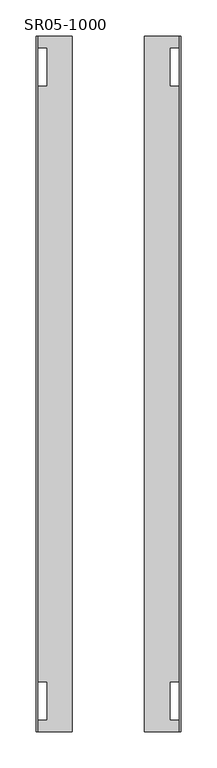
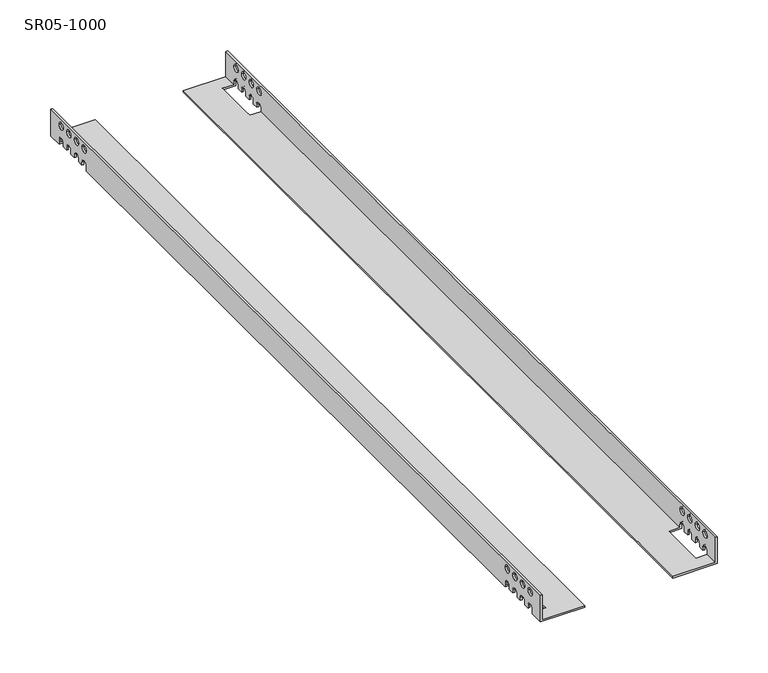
"""IFC4 building model written with IfcOpenShell, lengths in millimetres: proxy geometry, Уголки : SR05-1000."""

from ifc_helpers import new_model, si_unit, frame, origin, place, context, project, spatial, polyline, circle_curve, source, transform, mapped, element, save
from ifc_brep_helpers import plane_surface, revolved_surface, advanced_brep


def sr05_1000_b6e2f19d(model_context):
    return source(origin(), model_context, "Body", "AdvancedBrep", [
        advanced_brep(
        [(-98.0, -480.0, 32.0), (-100.0, -480.0, 32.0), (-100.0, -480.0, 0.0), (-50.0, -480.0, 0.0), (-50.0, -480.0, 2.0), (-98.0, -480.0, 2.0), (-98.0, 480.0, 32.0), (-98.0, 480.0, 2.0), (-50.0, 480.0, 2.0), (-50.0, 480.0, 0.0), (-100.0, 480.0, 0.0), (-100.0, 480.0, 32.0), (-100.0, 464.1733431, 0.0), (-100.0, 464.1733431, 5.925008), (-100.0, 455.8266569, 5.925008), (-100.0, 455.8266569, 2.0), (-100.0, 449.1733431, 2.0), (-100.0, 449.1733431, 5.925008), (-100.0, 440.8266569, 5.925008), (-100.0, 440.8266569, 2.0), (-100.0, 434.1733431, 2.0), (-100.0, 434.1733431, 5.925008), (-100.0, 425.8266569, 5.925008), (-100.0, 425.8266569, 2.0), (-100.0, 419.1733431, 2.0), (-100.0, 419.1733431, 5.925008), (-100.0, 410.8266569, 5.925008), (-100.0, 410.8266569, 0.0), (-100.0, -410.8266569, 0.0), (-100.0, -410.8266569, 5.925008), (-100.0, -419.1733431, 5.925008), (-100.0, -419.1733431, 2.0), (-100.0, -425.8266569, 2.0), (-100.0, -425.8266569, 5.925008), (-100.0, -434.1733431, 5.925008), (-100.0, -434.1733431, 2.0), (-100.0, -440.8266569, 2.0), (-100.0, -440.8266569, 5.925008), (-100.0, -449.1733431, 5.925008), (-100.0, -449.1733431, 2.0), (-100.0, -455.8266569, 2.0), (-100.0, -455.8266569, 5.925008), (-100.0, -464.1733431, 5.925008), (-100.0, -464.1733431, 0.0), (-100.0, -449.1733431, 24.0), (-100.0, -440.8266569, 24.0), (-100.0, -464.1733431, 24.0), (-100.0, -455.8266569, 24.0), (-100.0, -434.1733431, 24.0), (-100.0, -425.8266569, 24.0), (-100.0, -419.1733431, 24.0), (-100.0, -410.8266569, 24.0), (-100.0, 440.8266569, 24.0), (-100.0, 449.1733431, 24.0), (-100.0, 455.8266569, 24.0), (-100.0, 464.1733431, 24.0), (-100.0, 425.8266569, 24.0), (-100.0, 434.1733431, 24.0), (-100.0, 410.8266569, 24.0), (-100.0, 419.1733431, 24.0), (-85.0, -464.1733431, 0.0), (-85.0, -410.8266569, 0.0), (-85.0, 410.8266569, 0.0), (-85.0, 464.1733431, 0.0), (-98.0, 464.1733431, 2.0), (-85.0, 464.1733431, 2.0), (-85.0, 455.8266569, 2.0), (-85.0, 449.1733431, 2.0), (-85.0, 440.8266569, 2.0), (-85.0, 434.1733431, 2.0), (-85.0, 425.8266569, 2.0), (-85.0, 419.1733431, 2.0), (-85.0, 410.8266569, 2.0), (-98.0, 410.8266569, 2.0), (-98.0, -410.8266569, 2.0), (-85.0, -410.8266569, 2.0), (-85.0, -419.1733431, 2.0), (-85.0, -425.8266569, 2.0), (-85.0, -434.1733431, 2.0), (-85.0, -440.8266569, 2.0), (-85.0, -449.1733431, 2.0), (-85.0, -455.8266569, 2.0), (-85.0, -464.1733431, 2.0), (-98.0, -464.1733431, 2.0), (-98.0, -464.1733431, 5.925008), (-98.0, -455.8266569, 5.925008), (-98.0, -455.8266569, 2.0), (-98.0, -449.1733431, 2.0), (-98.0, -449.1733431, 5.925008), (-98.0, -440.8266569, 5.925008), (-98.0, -440.8266569, 2.0), (-98.0, -434.1733431, 2.0), (-98.0, -434.1733431, 5.925008), (-98.0, -425.8266569, 5.925008), (-98.0, -425.8266569, 2.0), (-98.0, -419.1733431, 2.0), (-98.0, -419.1733431, 5.925008), (-98.0, -410.8266569, 5.925008), (-98.0, 410.8266569, 5.925008), (-98.0, 419.1733431, 5.925008), (-98.0, 419.1733431, 2.0), (-98.0, 425.8266569, 2.0), (-98.0, 425.8266569, 5.925008), (-98.0, 434.1733431, 5.925008), (-98.0, 434.1733431, 2.0), (-98.0, 440.8266569, 2.0), (-98.0, 440.8266569, 5.925008), (-98.0, 449.1733431, 5.925008), (-98.0, 449.1733431, 2.0), (-98.0, 455.8266569, 2.0), (-98.0, 455.8266569, 5.925008), (-98.0, 464.1733431, 5.925008), (-98.0, -440.8266569, 24.0), (-98.0, -449.1733431, 24.0), (-98.0, -455.8266569, 24.0), (-98.0, -464.1733431, 24.0), (-98.0, -425.8266569, 24.0), (-98.0, -434.1733431, 24.0), (-98.0, -410.8266569, 24.0), (-98.0, -419.1733431, 24.0), (-98.0, 449.1733431, 24.0), (-98.0, 440.8266569, 24.0), (-98.0, 464.1733431, 24.0), (-98.0, 455.8266569, 24.0), (-98.0, 434.1733431, 24.0), (-98.0, 425.8266569, 24.0), (-98.0, 419.1733431, 24.0), (-98.0, 410.8266569, 24.0)],
        [
            (0, 1),
            (1, 2),
            (2, 3),
            (3, 4),
            (4, 5),
            (5, 0),
            (6, 7),
            (7, 8),
            (8, 9),
            (9, 10),
            (10, 11),
            (11, 6),
            (0, 6),
            (11, 1),
            (10, 12),
            (12, 13),
            (13, 14, circle_curve(frame((-100.0, 460.0, 5.925008), z_axis=(1.0, 0.0, 0.0), x_axis=(0.0, -1.0, 0.0)), 4.1733431)),
            (14, 15),
            (15, 16),
            (16, 17),
            (17, 18, circle_curve(frame((-100.0, 445.0, 5.925008), z_axis=(1.0, 0.0, 0.0), x_axis=(0.0, -1.0, 0.0)), 4.1733431)),
            (18, 19),
            (19, 20),
            (20, 21),
            (21, 22, circle_curve(frame((-100.0, 430.0, 5.925008), z_axis=(1.0, 0.0, 0.0), x_axis=(0.0, -1.0, 0.0)), 4.1733431)),
            (22, 23),
            (23, 24),
            (24, 25),
            (25, 26, circle_curve(frame((-100.0, 415.0, 5.925008), z_axis=(1.0, 0.0, 0.0), x_axis=(0.0, -1.0, 0.0)), 4.1733431)),
            (26, 27),
            (27, 28),
            (28, 29),
            (29, 30, circle_curve(frame((-100.0, -415.0, 5.925008), z_axis=(1.0, 0.0, 0.0), x_axis=(0.0, -1.0, 0.0)), 4.1733431)),
            (30, 31),
            (31, 32),
            (32, 33),
            (33, 34, circle_curve(frame((-100.0, -430.0, 5.925008), z_axis=(1.0, 0.0, 0.0), x_axis=(0.0, -1.0, 0.0)), 4.1733431)),
            (34, 35),
            (35, 36),
            (36, 37),
            (37, 38, circle_curve(frame((-100.0, -445.0, 5.925008), z_axis=(1.0, 0.0, 0.0), x_axis=(0.0, -1.0, 0.0)), 4.1733431)),
            (38, 39),
            (39, 40),
            (40, 41),
            (41, 42, circle_curve(frame((-100.0, -460.0, 5.925008), z_axis=(1.0, 0.0, 0.0), x_axis=(0.0, -1.0, 0.0)), 4.1733431)),
            (42, 43),
            (43, 2),
            (44, 45, circle_curve(frame((-100.0, -445.0, 24.0), z_axis=(1.0, 0.0, 0.0), x_axis=(0.0, -1.0, 0.0)), 4.1733431)),
            (45, 44, circle_curve(frame((-100.0, -445.0, 24.0), z_axis=(1.0, 0.0, 0.0), x_axis=(0.0, -1.0, 0.0)), 4.1733431)),
            (46, 47, circle_curve(frame((-100.0, -460.0, 24.0), z_axis=(1.0, 0.0, 0.0), x_axis=(0.0, -1.0, 0.0)), 4.1733431)),
            (47, 46, circle_curve(frame((-100.0, -460.0, 24.0), z_axis=(1.0, 0.0, 0.0), x_axis=(0.0, -1.0, 0.0)), 4.1733431)),
            (48, 49, circle_curve(frame((-100.0, -430.0, 24.0), z_axis=(1.0, 0.0, 0.0), x_axis=(0.0, -1.0, 0.0)), 4.1733431)),
            (49, 48, circle_curve(frame((-100.0, -430.0, 24.0), z_axis=(1.0, 0.0, 0.0), x_axis=(0.0, -1.0, 0.0)), 4.1733431)),
            (50, 51, circle_curve(frame((-100.0, -415.0, 24.0), z_axis=(1.0, 0.0, 0.0), x_axis=(0.0, -1.0, 0.0)), 4.1733431)),
            (51, 50, circle_curve(frame((-100.0, -415.0, 24.0), z_axis=(1.0, 0.0, 0.0), x_axis=(0.0, -1.0, 0.0)), 4.1733431)),
            (52, 53, circle_curve(frame((-100.0, 445.0, 24.0), z_axis=(1.0, 0.0, 0.0), x_axis=(0.0, -1.0, 0.0)), 4.1733431)),
            (53, 52, circle_curve(frame((-100.0, 445.0, 24.0), z_axis=(1.0, 0.0, 0.0), x_axis=(0.0, -1.0, 0.0)), 4.1733431)),
            (54, 55, circle_curve(frame((-100.0, 460.0, 24.0), z_axis=(1.0, 0.0, 0.0), x_axis=(0.0, -1.0, 0.0)), 4.1733431)),
            (55, 54, circle_curve(frame((-100.0, 460.0, 24.0), z_axis=(1.0, 0.0, 0.0), x_axis=(0.0, -1.0, 0.0)), 4.1733431)),
            (56, 57, circle_curve(frame((-100.0, 430.0, 24.0), z_axis=(1.0, 0.0, 0.0), x_axis=(0.0, -1.0, 0.0)), 4.1733431)),
            (57, 56, circle_curve(frame((-100.0, 430.0, 24.0), z_axis=(1.0, 0.0, 0.0), x_axis=(0.0, -1.0, 0.0)), 4.1733431)),
            (58, 59, circle_curve(frame((-100.0, 415.0, 24.0), z_axis=(1.0, 0.0, 0.0), x_axis=(0.0, -1.0, 0.0)), 4.1733431)),
            (59, 58, circle_curve(frame((-100.0, 415.0, 24.0), z_axis=(1.0, 0.0, 0.0), x_axis=(0.0, -1.0, 0.0)), 4.1733431)),
            (43, 60),
            (60, 61),
            (61, 28),
            (27, 62),
            (62, 63),
            (63, 12),
            (9, 3),
            (8, 4),
            (7, 64),
            (64, 65),
            (65, 66),
            (66, 67),
            (67, 68),
            (68, 69),
            (69, 70),
            (70, 71),
            (71, 72),
            (72, 73),
            (73, 74),
            (74, 75),
            (75, 76),
            (76, 77),
            (77, 78),
            (78, 79),
            (79, 80),
            (80, 81),
            (81, 82),
            (82, 83),
            (83, 5),
            (83, 84),
            (84, 85, circle_curve(frame((-98.0, -460.0, 5.925008), z_axis=(-1.0, 0.0, 0.0), x_axis=(0.0, -1.0, 0.0)), 4.1733431)),
            (85, 86),
            (86, 87),
            (87, 88),
            (88, 89, circle_curve(frame((-98.0, -445.0, 5.925008), z_axis=(-1.0, 0.0, 0.0), x_axis=(0.0, -1.0, 0.0)), 4.1733431)),
            (89, 90),
            (90, 91),
            (91, 92),
            (92, 93, circle_curve(frame((-98.0, -430.0, 5.925008), z_axis=(-1.0, 0.0, 0.0), x_axis=(0.0, -1.0, 0.0)), 4.1733431)),
            (93, 94),
            (94, 95),
            (95, 96),
            (96, 97, circle_curve(frame((-98.0, -415.0, 5.925008), z_axis=(-1.0, 0.0, 0.0), x_axis=(0.0, -1.0, 0.0)), 4.1733431)),
            (97, 74),
            (73, 98),
            (98, 99, circle_curve(frame((-98.0, 415.0, 5.925008), z_axis=(-1.0, 0.0, 0.0), x_axis=(0.0, -1.0, 0.0)), 4.1733431)),
            (99, 100),
            (100, 101),
            (101, 102),
            (102, 103, circle_curve(frame((-98.0, 430.0, 5.925008), z_axis=(-1.0, 0.0, 0.0), x_axis=(0.0, -1.0, 0.0)), 4.1733431)),
            (103, 104),
            (104, 105),
            (105, 106),
            (106, 107, circle_curve(frame((-98.0, 445.0, 5.925008), z_axis=(-1.0, 0.0, 0.0), x_axis=(0.0, -1.0, 0.0)), 4.1733431)),
            (107, 108),
            (108, 109),
            (109, 110),
            (110, 111, circle_curve(frame((-98.0, 460.0, 5.925008), z_axis=(-1.0, 0.0, 0.0), x_axis=(0.0, -1.0, 0.0)), 4.1733431)),
            (111, 64),
            (112, 113, circle_curve(frame((-98.0, -445.0, 24.0), z_axis=(-1.0, 0.0, 0.0), x_axis=(0.0, -1.0, 0.0)), 4.1733431)),
            (113, 112, circle_curve(frame((-98.0, -445.0, 24.0), z_axis=(-1.0, 0.0, 0.0), x_axis=(0.0, -1.0, 0.0)), 4.1733431)),
            (114, 115, circle_curve(frame((-98.0, -460.0, 24.0), z_axis=(-1.0, 0.0, 0.0), x_axis=(0.0, -1.0, 0.0)), 4.1733431)),
            (115, 114, circle_curve(frame((-98.0, -460.0, 24.0), z_axis=(-1.0, 0.0, 0.0), x_axis=(0.0, -1.0, 0.0)), 4.1733431)),
            (116, 117, circle_curve(frame((-98.0, -430.0, 24.0), z_axis=(-1.0, 0.0, 0.0), x_axis=(0.0, -1.0, 0.0)), 4.1733431)),
            (117, 116, circle_curve(frame((-98.0, -430.0, 24.0), z_axis=(-1.0, 0.0, 0.0), x_axis=(0.0, -1.0, 0.0)), 4.1733431)),
            (118, 119, circle_curve(frame((-98.0, -415.0, 24.0), z_axis=(-1.0, 0.0, 0.0), x_axis=(0.0, -1.0, 0.0)), 4.1733431)),
            (119, 118, circle_curve(frame((-98.0, -415.0, 24.0), z_axis=(-1.0, 0.0, 0.0), x_axis=(0.0, -1.0, 0.0)), 4.1733431)),
            (120, 121, circle_curve(frame((-98.0, 445.0, 24.0), z_axis=(-1.0, 0.0, 0.0), x_axis=(0.0, -1.0, 0.0)), 4.1733431)),
            (121, 120, circle_curve(frame((-98.0, 445.0, 24.0), z_axis=(-1.0, 0.0, 0.0), x_axis=(0.0, -1.0, 0.0)), 4.1733431)),
            (122, 123, circle_curve(frame((-98.0, 460.0, 24.0), z_axis=(-1.0, 0.0, 0.0), x_axis=(0.0, -1.0, 0.0)), 4.1733431)),
            (123, 122, circle_curve(frame((-98.0, 460.0, 24.0), z_axis=(-1.0, 0.0, 0.0), x_axis=(0.0, -1.0, 0.0)), 4.1733431)),
            (124, 125, circle_curve(frame((-98.0, 430.0, 24.0), z_axis=(-1.0, 0.0, 0.0), x_axis=(0.0, -1.0, 0.0)), 4.1733431)),
            (125, 124, circle_curve(frame((-98.0, 430.0, 24.0), z_axis=(-1.0, 0.0, 0.0), x_axis=(0.0, -1.0, 0.0)), 4.1733431)),
            (126, 127, circle_curve(frame((-98.0, 415.0, 24.0), z_axis=(-1.0, 0.0, 0.0), x_axis=(0.0, -1.0, 0.0)), 4.1733431)),
            (127, 126, circle_curve(frame((-98.0, 415.0, 24.0), z_axis=(-1.0, 0.0, 0.0), x_axis=(0.0, -1.0, 0.0)), 4.1733431)),
            (75, 61),
            (60, 82),
            (65, 63),
            (62, 72),
            (112, 45),
            (44, 113),
            (114, 47),
            (46, 115),
            (116, 49),
            (48, 117),
            (118, 51),
            (50, 119),
            (120, 53),
            (52, 121),
            (122, 55),
            (54, 123),
            (124, 57),
            (56, 125),
            (126, 59),
            (58, 127),
            (95, 31),
            (30, 96),
            (29, 97),
            (91, 35),
            (34, 92),
            (33, 93),
            (32, 94),
            (87, 39),
            (38, 88),
            (37, 89),
            (36, 90),
            (42, 84),
            (41, 85),
            (40, 86),
            (23, 101),
            (100, 24),
            (22, 102),
            (21, 103),
            (20, 104),
            (19, 105),
            (18, 106),
            (17, 107),
            (16, 108),
            (15, 109),
            (14, 110),
            (13, 111),
            (26, 98),
            (25, 99),
        ],
        [
            plane_surface(frame((-100.0, -480.0, 32.0), z_axis=(0.0, -1.0, 0.0), x_axis=(-1.0, 0.0, 0.0))),
            plane_surface(frame((-100.0, 480.0, 32.0), z_axis=(0.0, 1.0, 0.0), x_axis=(1.0, 0.0, 0.0))),
            plane_surface(frame((-98.0, -480.0, 32.0), z_axis=(0.0, 0.0, 1.0), x_axis=(0.0, 1.0, 0.0))),
            plane_surface(frame((-100.0, -480.0, 32.0), z_axis=(-1.0, 0.0, 0.0), x_axis=(0.0, 1.0, 0.0))),
            plane_surface(frame((-100.0, -480.0, 0.0), z_axis=(0.0, 0.0, -1.0), x_axis=(0.0, 1.0, 0.0))),
            plane_surface(frame((-50.0, -480.0, 0.0), z_axis=(1.0, 0.0, 0.0), x_axis=(0.0, 1.0, 0.0))),
            plane_surface(frame((-50.0, -480.0, 2.0), z_axis=(0.0, 0.0, 1.0), x_axis=(0.0, 1.0, 0.0))),
            plane_surface(frame((-98.0, -480.0, 2.0), z_axis=(1.0, 0.0, 0.0), x_axis=(0.0, 1.0, 0.0))),
            plane_surface(frame((-85.0, -449.1733431, 24.0), z_axis=(-1.0, 0.0, 0.0), x_axis=(0.0, 0.0, -1.0))),
            revolved_surface(polyline([(-100.0, -449.1733431, 24.0), (-98.0, -449.1733431, 24.0)]), (-85.0, -445.0, 24.0), (-1.0, 0.0, 0.0)),
            revolved_surface(polyline([(-100.0, -464.1733431, 24.0), (-98.0, -464.1733431, 24.0)]), (-100.0, -460.0, 24.0), (-1.0, 0.0, 0.0)),
            revolved_surface(polyline([(-100.0, -434.1733431, 24.0), (-98.0, -434.1733431, 24.0)]), (-100.0, -430.0, 24.0), (-1.0, 0.0, 0.0)),
            revolved_surface(polyline([(-100.0, -419.1733431, 24.0), (-98.0, -419.1733431, 24.0)]), (-100.0, -415.0, 24.0), (-1.0, 0.0, 0.0)),
            revolved_surface(polyline([(-100.0, 440.8266569, 24.0), (-98.0, 440.8266569, 24.0)]), (-100.0, 445.0, 24.0), (-1.0, 0.0, 0.0)),
            revolved_surface(polyline([(-100.0, 455.8266569, 24.0), (-98.0, 455.8266569, 24.0)]), (-100.0, 460.0, 24.0), (-1.0, 0.0, 0.0)),
            revolved_surface(polyline([(-100.0, 425.8266569, 24.0), (-98.0, 425.8266569, 24.0)]), (-100.0, 430.0, 24.0), (-1.0, 0.0, 0.0)),
            revolved_surface(polyline([(-100.0, 410.8266569, 24.0), (-98.0, 410.8266569, 24.0)]), (-100.0, 415.0, 24.0), (-1.0, 0.0, 0.0)),
            plane_surface(frame((-100.0, -419.1733431, 2.0), z_axis=(0.0, 1.0, 0.0), x_axis=(1.0, 0.0, 0.0))),
            revolved_surface(polyline([(-100.0, -419.1733431, 5.925008), (-98.0, -419.1733431, 5.925008)]), (-100.0, -415.0, 5.925008), (-1.0, 0.0, 0.0)),
            plane_surface(frame((-100.0, -410.8266569, 5.925008), z_axis=(0.0, -1.0, 0.0), x_axis=(1.0, 0.0, 0.0))),
            plane_surface(frame((-100.0, -434.1733431, 2.0), z_axis=(0.0, 1.0, 0.0), x_axis=(1.0, 0.0, 0.0))),
            revolved_surface(polyline([(-100.0, -434.1733431, 5.925008), (-98.0, -434.1733431, 5.925008)]), (-100.0, -430.0, 5.925008), (-1.0, 0.0, 0.0)),
            plane_surface(frame((-100.0, -425.8266569, 5.925008), z_axis=(0.0, -1.0, 0.0), x_axis=(1.0, 0.0, 0.0))),
            plane_surface(frame((-100.0, -425.8266569, 2.0), z_axis=(0.0, 0.0, -1.0), x_axis=(1.0, 0.0, 0.0))),
            plane_surface(frame((-100.0, -449.1733431, 2.0), z_axis=(0.0, 1.0, 8.742237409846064e-12), x_axis=(1.0, 0.0, 0.0))),
            revolved_surface(polyline([(-100.0, -449.1733431, 5.925008), (-98.0, -449.1733431, 5.925008)]), (-100.0, -445.0, 5.925008), (-1.0, 0.0, 0.0)),
            plane_surface(frame((-100.0, -440.8266569, 5.925008), z_axis=(0.0, -1.0, 0.0), x_axis=(1.0, 0.0, 0.0))),
            plane_surface(frame((-100.0, -440.8266569, 2.0), z_axis=(0.0, 0.0, -1.0), x_axis=(1.0, 0.0, 0.0))),
            plane_surface(frame((-100.0, -464.1733431, 0.0), z_axis=(0.0, 1.0, 0.0), x_axis=(1.0, 0.0, 0.0))),
            revolved_surface(polyline([(-100.0, -464.1733431, 5.925008), (-98.0, -464.1733431, 5.925008)]), (-100.0, -460.0, 5.925008), (-1.0, 0.0, 0.0)),
            plane_surface(frame((-100.0, -455.8266569, 5.925008), z_axis=(0.0, -1.0, 0.0), x_axis=(1.0, 0.0, 0.0))),
            plane_surface(frame((-100.0, -455.8266569, 2.0), z_axis=(0.0, 0.0, -1.0), x_axis=(1.0, 0.0, 0.0))),
            plane_surface(frame((-100.0, 419.1733431, 2.0), z_axis=(0.0, 0.0, -1.0), x_axis=(1.0, 0.0, 0.0))),
            plane_surface(frame((-100.0, 425.8266569, 2.0), z_axis=(0.0, 1.0, 0.0), x_axis=(1.0, 0.0, 0.0))),
            revolved_surface(polyline([(-100.0, 425.8266569, 5.925008), (-98.0, 425.8266569, 5.925008)]), (-100.0, 430.0, 5.925008), (-1.0, 0.0, 0.0)),
            plane_surface(frame((-100.0, 434.1733431, 5.925008), z_axis=(0.0, -1.0, 0.0), x_axis=(1.0, 0.0, 0.0))),
            plane_surface(frame((-100.0, 434.1733431, 2.0), z_axis=(0.0, 0.0, -1.0), x_axis=(1.0, 0.0, 0.0))),
            plane_surface(frame((-100.0, 440.8266569, 2.0), z_axis=(0.0, 1.0, 0.0), x_axis=(1.0, 0.0, 0.0))),
            revolved_surface(polyline([(-100.0, 440.8266569, 5.925008), (-98.0, 440.8266569, 5.925008)]), (-100.0, 445.0, 5.925008), (-1.0, 0.0, 0.0)),
            plane_surface(frame((-100.0, 449.1733431, 5.925008), z_axis=(0.0, -1.0, -4.241795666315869e-12), x_axis=(1.0, 0.0, 0.0))),
            plane_surface(frame((-100.0, 449.1733431, 2.0), z_axis=(0.0, 0.0, -1.0), x_axis=(1.0, 0.0, 0.0))),
            plane_surface(frame((-100.0, 455.8266569, 2.0), z_axis=(0.0, 1.0, 0.0), x_axis=(1.0, 0.0, 0.0))),
            revolved_surface(polyline([(-100.0, 455.8266569, 5.925008), (-98.0, 455.8266569, 5.925008)]), (-100.0, 460.0, 5.925008), (-1.0, 0.0, 0.0)),
            plane_surface(frame((-100.0, 464.1733431, 5.925008), z_axis=(0.0, -1.0, 0.0), x_axis=(1.0, 0.0, 0.0))),
            plane_surface(frame((-100.0, 410.8266569, 0.0), z_axis=(0.0, 1.0, 0.0), x_axis=(1.0, 0.0, 0.0))),
            revolved_surface(polyline([(-100.0, 410.8266569, 5.925008), (-98.0, 410.8266569, 5.925008)]), (-100.0, 415.0, 5.925008), (-1.0, 0.0, 0.0)),
            plane_surface(frame((-100.0, 419.1733431, 5.925008), z_axis=(0.0, -1.0, 0.0), x_axis=(1.0, 0.0, 0.0))),
        ],
        [
            (0, [[1, 2, 3, 4, 5, 6]]),
            (1, [[7, 8, 9, 10, 11, 12]]),
            (2, [[-1, 13, -12, 14]]),
            (3, [[-2, -14, -11, 15, 16, 17, 18, 19, 20, 21, 22, 23, 24, 25, 26, 27, 28, 29, 30, 31, 32, 33, 34, 35, 36, 37, 38, 39, 40, 41, 42, 43, 44, 45, 46, 47], [48, 49], [50, 51], [52, 53], [54, 55], [56, 57], [58, 59], [60, 61], [62, 63]]),
            (4, [[-3, -47, 64, 65, 66, -31, 67, 68, 69, -15, -10, 70]]),
            (5, [[-4, -70, -9, 71]]),
            (6, [[-5, -71, -8, 72, 73, 74, 75, 76, 77, 78, 79, 80, 81, 82, 83, 84, 85, 86, 87, 88, 89, 90, 91, 92]]),
            (7, [[-6, -92, 93, 94, 95, 96, 97, 98, 99, 100, 101, 102, 103, 104, 105, 106, 107, -82, 108, 109, 110, 111, 112, 113, 114, 115, 116, 117, 118, 119, 120, 121, 122, -72, -7, -13], [123, 124], [125, 126], [127, 128], [129, 130], [131, 132], [133, 134], [135, 136], [137, 138]]),
            (8, [[139, -65, 140, -90, -89, -88, -87, -86, -85, -84]]),
            (8, [[141, -68, 142, -80, -79, -78, -77, -76, -75, -74]]),
            (9, [[143, -48, 144, -123]]),
            (9, [[-143, -124, -144, -49]]),
            (10, [[145, -50, 146, -125]]),
            (10, [[-145, -126, -146, -51]]),
            (11, [[147, -52, 148, -127]]),
            (11, [[-147, -128, -148, -53]]),
            (12, [[149, -54, 150, -129]]),
            (12, [[-149, -130, -150, -55]]),
            (13, [[151, -56, 152, -131]]),
            (13, [[-151, -132, -152, -57]]),
            (14, [[153, -58, 154, -133]]),
            (14, [[-153, -134, -154, -59]]),
            (15, [[155, -60, 156, -135]]),
            (15, [[-155, -136, -156, -61]]),
            (16, [[157, -62, 158, -137]]),
            (16, [[-157, -138, -158, -63]]),
            (17, [[159, -34, 160, -105]]),
            (18, [[-160, -33, 161, -106]]),
            (19, [[-139, -83, -107, -161, -32, -66]]),
            (20, [[162, -38, 163, -101]]),
            (21, [[-163, -37, 164, -102]]),
            (22, [[165, -103, -164, -36]]),
            (23, [[-159, -104, -165, -35]]),
            (24, [[166, -42, 167, -97]]),
            (25, [[-167, -41, 168, -98]]),
            (26, [[169, -99, -168, -40]]),
            (27, [[-162, -100, -169, -39]]),
            (28, [[-140, -64, -46, 170, -93, -91]]),
            (29, [[-170, -45, 171, -94]]),
            (30, [[172, -95, -171, -44]]),
            (31, [[-166, -96, -172, -43]]),
            (32, [[173, -111, 174, -27]]),
            (33, [[-173, -26, 175, -112]]),
            (34, [[-175, -25, 176, -113]]),
            (35, [[177, -114, -176, -24]]),
            (36, [[-177, -23, 178, -115]]),
            (37, [[-178, -22, 179, -116]]),
            (38, [[-179, -21, 180, -117]]),
            (39, [[181, -118, -180, -20]]),
            (40, [[-181, -19, 182, -119]]),
            (41, [[-182, -18, 183, -120]]),
            (42, [[-183, -17, 184, -121]]),
            (43, [[-141, -73, -122, -184, -16, -69]]),
            (44, [[-142, -67, -30, 185, -108, -81]]),
            (45, [[-185, -29, 186, -109]]),
            (46, [[-174, -110, -186, -28]]),
        ],
    ),
        advanced_brep(
        [(98.0, -480.0, 32.0), (98.0, -480.0, 2.0), (50.0, -480.0, 2.0), (50.0, -480.0, 0.0), (100.0, -480.0, 0.0), (100.0, -480.0, 32.0), (98.0, 480.0, 32.0), (100.0, 480.0, 32.0), (100.0, 480.0, 0.0), (50.0, 480.0, 0.0), (50.0, 480.0, 2.0), (98.0, 480.0, 2.0), (98.0, 464.1733431, 2.0), (98.0, 464.1733431, 5.925008), (98.0, 455.8266569, 5.925008), (98.0, 455.8266569, 2.0), (98.0, 449.1733431, 2.0), (98.0, 449.1733431, 5.925008), (98.0, 440.8266569, 5.925008), (98.0, 440.8266569, 2.0), (98.0, 434.1733431, 2.0), (98.0, 434.1733431, 5.925008), (98.0, 425.8266569, 5.925008), (98.0, 425.8266569, 2.0), (98.0, 419.1733431, 2.0), (98.0, 419.1733431, 5.925008), (98.0, 410.8266569, 5.925008), (98.0, 410.8266569, 2.0), (98.0, -410.8266569, 2.0), (98.0, -410.8266569, 5.925008), (98.0, -419.1733431, 5.925008), (98.0, -419.1733431, 2.0), (98.0, -425.8266569, 2.0), (98.0, -425.8266569, 5.925008), (98.0, -434.1733431, 5.925008), (98.0, -434.1733431, 2.0), (98.0, -440.8266569, 2.0), (98.0, -440.8266569, 5.925008), (98.0, -449.1733431, 5.925008), (98.0, -449.1733431, 2.0), (98.0, -455.8266569, 2.0), (98.0, -455.8266569, 5.925008), (98.0, -464.1733431, 5.925008), (98.0, -464.1733431, 2.0), (98.0, -449.1733431, 24.0), (98.0, -440.8266569, 24.0), (98.0, -464.1733431, 24.0), (98.0, -455.8266569, 24.0), (98.0, -434.1733431, 24.0), (98.0, -425.8266569, 24.0), (98.0, -419.1733431, 24.0), (98.0, -410.8266569, 24.0), (98.0, 440.8266569, 24.0), (98.0, 449.1733431, 24.0), (98.0, 455.8266569, 24.0), (98.0, 464.1733431, 24.0), (98.0, 425.8266569, 24.0), (98.0, 434.1733431, 24.0), (98.0, 410.8266569, 24.0), (98.0, 419.1733431, 24.0), (85.0, -464.1733431, 2.0), (85.0, -455.8266569, 2.0), (85.0, -449.1733431, 2.0), (85.0, -440.8266569, 2.0), (85.0, -434.1733431, 2.0), (85.0, -425.8266569, 2.0), (85.0, -419.1733431, 2.0), (85.0, -410.8266569, 2.0), (85.0, 410.8266569, 2.0), (85.0, 419.1733431, 2.0), (85.0, 425.8266569, 2.0), (85.0, 434.1733431, 2.0), (85.0, 440.8266569, 2.0), (85.0, 449.1733431, 2.0), (85.0, 455.8266569, 2.0), (85.0, 464.1733431, 2.0), (100.0, 464.1733431, 0.0), (85.0, 464.1733431, 0.0), (85.0, 410.8266569, 0.0), (100.0, 410.8266569, 0.0), (100.0, -410.8266569, 0.0), (85.0, -410.8266569, 0.0), (85.0, -464.1733431, 0.0), (100.0, -464.1733431, 0.0), (100.0, -464.1733431, 5.925008), (100.0, -455.8266569, 5.925008), (100.0, -455.8266569, 2.0), (100.0, -449.1733431, 2.0), (100.0, -449.1733431, 5.925008), (100.0, -440.8266569, 5.925008), (100.0, -440.8266569, 2.0), (100.0, -434.1733431, 2.0), (100.0, -434.1733431, 5.925008), (100.0, -425.8266569, 5.925008), (100.0, -425.8266569, 2.0), (100.0, -419.1733431, 2.0), (100.0, -419.1733431, 5.925008), (100.0, -410.8266569, 5.925008), (100.0, 410.8266569, 5.925008), (100.0, 419.1733431, 5.925008), (100.0, 419.1733431, 2.0), (100.0, 425.8266569, 2.0), (100.0, 425.8266569, 5.925008), (100.0, 434.1733431, 5.925008), (100.0, 434.1733431, 2.0), (100.0, 440.8266569, 2.0), (100.0, 440.8266569, 5.925008), (100.0, 449.1733431, 5.925008), (100.0, 449.1733431, 2.0), (100.0, 455.8266569, 2.0), (100.0, 455.8266569, 5.925008), (100.0, 464.1733431, 5.925008), (100.0, -440.8266569, 24.0), (100.0, -449.1733431, 24.0), (100.0, -455.8266569, 24.0), (100.0, -464.1733431, 24.0), (100.0, -425.8266569, 24.0), (100.0, -434.1733431, 24.0), (100.0, -410.8266569, 24.0), (100.0, -419.1733431, 24.0), (100.0, 449.1733431, 24.0), (100.0, 440.8266569, 24.0), (100.0, 464.1733431, 24.0), (100.0, 455.8266569, 24.0), (100.0, 434.1733431, 24.0), (100.0, 425.8266569, 24.0), (100.0, 419.1733431, 24.0), (100.0, 410.8266569, 24.0)],
        [
            (0, 1),
            (1, 2),
            (2, 3),
            (3, 4),
            (4, 5),
            (5, 0),
            (6, 7),
            (7, 8),
            (8, 9),
            (9, 10),
            (10, 11),
            (11, 6),
            (0, 6),
            (11, 12),
            (12, 13),
            (13, 14, circle_curve(frame((98.0, 460.0, 5.925008), z_axis=(1.0, 0.0, 0.0), x_axis=(0.0, -1.0, 0.0)), 4.1733431)),
            (14, 15),
            (15, 16),
            (16, 17),
            (17, 18, circle_curve(frame((98.0, 445.0, 5.925008), z_axis=(1.0, 0.0, 0.0), x_axis=(0.0, -1.0, 0.0)), 4.1733431)),
            (18, 19),
            (19, 20),
            (20, 21),
            (21, 22, circle_curve(frame((98.0, 430.0, 5.925008), z_axis=(1.0, 0.0, 0.0), x_axis=(0.0, -1.0, 0.0)), 4.1733431)),
            (22, 23),
            (23, 24),
            (24, 25),
            (25, 26, circle_curve(frame((98.0, 415.0, 5.925008), z_axis=(1.0, 0.0, 0.0), x_axis=(0.0, -1.0, 0.0)), 4.1733431)),
            (26, 27),
            (27, 28),
            (28, 29),
            (29, 30, circle_curve(frame((98.0, -415.0, 5.925008), z_axis=(1.0, 0.0, 0.0), x_axis=(0.0, -1.0, 0.0)), 4.1733431)),
            (30, 31),
            (31, 32),
            (32, 33),
            (33, 34, circle_curve(frame((98.0, -430.0, 5.925008), z_axis=(1.0, 0.0, 0.0), x_axis=(0.0, -1.0, 0.0)), 4.1733431)),
            (34, 35),
            (35, 36),
            (36, 37),
            (37, 38, circle_curve(frame((98.0, -445.0, 5.925008), z_axis=(1.0, 0.0, 0.0), x_axis=(0.0, -1.0, 0.0)), 4.1733431)),
            (38, 39),
            (39, 40),
            (40, 41),
            (41, 42, circle_curve(frame((98.0, -460.0, 5.925008), z_axis=(1.0, 0.0, 0.0), x_axis=(0.0, -1.0, 0.0)), 4.1733431)),
            (42, 43),
            (43, 1),
            (44, 45, circle_curve(frame((98.0, -445.0, 24.0), z_axis=(1.0, 0.0, 0.0), x_axis=(0.0, -1.0, 0.0)), 4.1733431)),
            (45, 44, circle_curve(frame((98.0, -445.0, 24.0), z_axis=(1.0, 0.0, 0.0), x_axis=(0.0, -1.0, 0.0)), 4.1733431)),
            (46, 47, circle_curve(frame((98.0, -460.0, 24.0), z_axis=(1.0, 0.0, 0.0), x_axis=(0.0, -1.0, 0.0)), 4.1733431)),
            (47, 46, circle_curve(frame((98.0, -460.0, 24.0), z_axis=(1.0, 0.0, 0.0), x_axis=(0.0, -1.0, 0.0)), 4.1733431)),
            (48, 49, circle_curve(frame((98.0, -430.0, 24.0), z_axis=(1.0, 0.0, 0.0), x_axis=(0.0, -1.0, 0.0)), 4.1733431)),
            (49, 48, circle_curve(frame((98.0, -430.0, 24.0), z_axis=(1.0, 0.0, 0.0), x_axis=(0.0, -1.0, 0.0)), 4.1733431)),
            (50, 51, circle_curve(frame((98.0, -415.0, 24.0), z_axis=(1.0, 0.0, 0.0), x_axis=(0.0, -1.0, 0.0)), 4.1733431)),
            (51, 50, circle_curve(frame((98.0, -415.0, 24.0), z_axis=(1.0, 0.0, 0.0), x_axis=(0.0, -1.0, 0.0)), 4.1733431)),
            (52, 53, circle_curve(frame((98.0, 445.0, 24.0), z_axis=(1.0, 0.0, 0.0), x_axis=(0.0, -1.0, 0.0)), 4.1733431)),
            (53, 52, circle_curve(frame((98.0, 445.0, 24.0), z_axis=(1.0, 0.0, 0.0), x_axis=(0.0, -1.0, 0.0)), 4.1733431)),
            (54, 55, circle_curve(frame((98.0, 460.0, 24.0), z_axis=(1.0, 0.0, 0.0), x_axis=(0.0, -1.0, 0.0)), 4.1733431)),
            (55, 54, circle_curve(frame((98.0, 460.0, 24.0), z_axis=(1.0, 0.0, 0.0), x_axis=(0.0, -1.0, 0.0)), 4.1733431)),
            (56, 57, circle_curve(frame((98.0, 430.0, 24.0), z_axis=(1.0, 0.0, 0.0), x_axis=(0.0, -1.0, 0.0)), 4.1733431)),
            (57, 56, circle_curve(frame((98.0, 430.0, 24.0), z_axis=(1.0, 0.0, 0.0), x_axis=(0.0, -1.0, 0.0)), 4.1733431)),
            (58, 59, circle_curve(frame((98.0, 415.0, 24.0), z_axis=(1.0, 0.0, 0.0), x_axis=(0.0, -1.0, 0.0)), 4.1733431)),
            (59, 58, circle_curve(frame((98.0, 415.0, 24.0), z_axis=(1.0, 0.0, 0.0), x_axis=(0.0, -1.0, 0.0)), 4.1733431)),
            (43, 60),
            (60, 61),
            (61, 62),
            (62, 63),
            (63, 64),
            (64, 65),
            (65, 66),
            (66, 67),
            (67, 28),
            (27, 68),
            (68, 69),
            (69, 70),
            (70, 71),
            (71, 72),
            (72, 73),
            (73, 74),
            (74, 75),
            (75, 12),
            (10, 2),
            (9, 3),
            (8, 76),
            (76, 77),
            (77, 78),
            (78, 79),
            (79, 80),
            (80, 81),
            (81, 82),
            (82, 83),
            (83, 4),
            (83, 84),
            (84, 85, circle_curve(frame((100.0, -460.0, 5.925008), z_axis=(-1.0, 0.0, 0.0), x_axis=(0.0, -1.0, 0.0)), 4.1733431)),
            (85, 86),
            (86, 87),
            (87, 88),
            (88, 89, circle_curve(frame((100.0, -445.0, 5.925008), z_axis=(-1.0, 0.0, 0.0), x_axis=(0.0, -1.0, 0.0)), 4.1733431)),
            (89, 90),
            (90, 91),
            (91, 92),
            (92, 93, circle_curve(frame((100.0, -430.0, 5.925008), z_axis=(-1.0, 0.0, 0.0), x_axis=(0.0, -1.0, 0.0)), 4.1733431)),
            (93, 94),
            (94, 95),
            (95, 96),
            (96, 97, circle_curve(frame((100.0, -415.0, 5.925008), z_axis=(-1.0, 0.0, 0.0), x_axis=(0.0, -1.0, 0.0)), 4.1733431)),
            (97, 80),
            (79, 98),
            (98, 99, circle_curve(frame((100.0, 415.0, 5.925008), z_axis=(-1.0, 0.0, 0.0), x_axis=(0.0, -1.0, 0.0)), 4.1733431)),
            (99, 100),
            (100, 101),
            (101, 102),
            (102, 103, circle_curve(frame((100.0, 430.0, 5.925008), z_axis=(-1.0, 0.0, 0.0), x_axis=(0.0, -1.0, 0.0)), 4.1733431)),
            (103, 104),
            (104, 105),
            (105, 106),
            (106, 107, circle_curve(frame((100.0, 445.0, 5.925008), z_axis=(-1.0, 0.0, 0.0), x_axis=(0.0, -1.0, 0.0)), 4.1733431)),
            (107, 108),
            (108, 109),
            (109, 110),
            (110, 111, circle_curve(frame((100.0, 460.0, 5.925008), z_axis=(-1.0, 0.0, 0.0), x_axis=(0.0, -1.0, 0.0)), 4.1733431)),
            (111, 76),
            (7, 5),
            (112, 113, circle_curve(frame((100.0, -445.0, 24.0), z_axis=(-1.0, 0.0, 0.0), x_axis=(0.0, -1.0, 0.0)), 4.1733431)),
            (113, 112, circle_curve(frame((100.0, -445.0, 24.0), z_axis=(-1.0, 0.0, 0.0), x_axis=(0.0, -1.0, 0.0)), 4.1733431)),
            (114, 115, circle_curve(frame((100.0, -460.0, 24.0), z_axis=(-1.0, 0.0, 0.0), x_axis=(0.0, -1.0, 0.0)), 4.1733431)),
            (115, 114, circle_curve(frame((100.0, -460.0, 24.0), z_axis=(-1.0, 0.0, 0.0), x_axis=(0.0, -1.0, 0.0)), 4.1733431)),
            (116, 117, circle_curve(frame((100.0, -430.0, 24.0), z_axis=(-1.0, 0.0, 0.0), x_axis=(0.0, -1.0, 0.0)), 4.1733431)),
            (117, 116, circle_curve(frame((100.0, -430.0, 24.0), z_axis=(-1.0, 0.0, 0.0), x_axis=(0.0, -1.0, 0.0)), 4.1733431)),
            (118, 119, circle_curve(frame((100.0, -415.0, 24.0), z_axis=(-1.0, 0.0, 0.0), x_axis=(0.0, -1.0, 0.0)), 4.1733431)),
            (119, 118, circle_curve(frame((100.0, -415.0, 24.0), z_axis=(-1.0, 0.0, 0.0), x_axis=(0.0, -1.0, 0.0)), 4.1733431)),
            (120, 121, circle_curve(frame((100.0, 445.0, 24.0), z_axis=(-1.0, 0.0, 0.0), x_axis=(0.0, -1.0, 0.0)), 4.1733431)),
            (121, 120, circle_curve(frame((100.0, 445.0, 24.0), z_axis=(-1.0, 0.0, 0.0), x_axis=(0.0, -1.0, 0.0)), 4.1733431)),
            (122, 123, circle_curve(frame((100.0, 460.0, 24.0), z_axis=(-1.0, 0.0, 0.0), x_axis=(0.0, -1.0, 0.0)), 4.1733431)),
            (123, 122, circle_curve(frame((100.0, 460.0, 24.0), z_axis=(-1.0, 0.0, 0.0), x_axis=(0.0, -1.0, 0.0)), 4.1733431)),
            (124, 125, circle_curve(frame((100.0, 430.0, 24.0), z_axis=(-1.0, 0.0, 0.0), x_axis=(0.0, -1.0, 0.0)), 4.1733431)),
            (125, 124, circle_curve(frame((100.0, 430.0, 24.0), z_axis=(-1.0, 0.0, 0.0), x_axis=(0.0, -1.0, 0.0)), 4.1733431)),
            (126, 127, circle_curve(frame((100.0, 415.0, 24.0), z_axis=(-1.0, 0.0, 0.0), x_axis=(0.0, -1.0, 0.0)), 4.1733431)),
            (127, 126, circle_curve(frame((100.0, 415.0, 24.0), z_axis=(-1.0, 0.0, 0.0), x_axis=(0.0, -1.0, 0.0)), 4.1733431)),
            (68, 78),
            (77, 75),
            (60, 82),
            (81, 67),
            (44, 113),
            (112, 45),
            (46, 115),
            (114, 47),
            (48, 117),
            (116, 49),
            (50, 119),
            (118, 51),
            (52, 121),
            (120, 53),
            (54, 123),
            (122, 55),
            (56, 125),
            (124, 57),
            (58, 127),
            (126, 59),
            (95, 31),
            (30, 96),
            (29, 97),
            (91, 35),
            (34, 92),
            (33, 93),
            (32, 94),
            (87, 39),
            (38, 88),
            (37, 89),
            (36, 90),
            (42, 84),
            (41, 85),
            (40, 86),
            (23, 101),
            (100, 24),
            (22, 102),
            (21, 103),
            (20, 104),
            (19, 105),
            (18, 106),
            (17, 107),
            (16, 108),
            (15, 109),
            (14, 110),
            (13, 111),
            (26, 98),
            (25, 99),
        ],
        [
            plane_surface(frame((-100.0, -480.0, 32.0), z_axis=(0.0, -1.0, 0.0), x_axis=(-1.0, 0.0, 0.0))),
            plane_surface(frame((-100.0, 480.0, 32.0), z_axis=(0.0, 1.0, 0.0), x_axis=(1.0, 0.0, 0.0))),
            plane_surface(frame((98.0, -480.0, 32.0), z_axis=(-1.0, 0.0, 0.0), x_axis=(0.0, 1.0, 0.0))),
            plane_surface(frame((98.0, -480.0, 2.0), z_axis=(0.0, 0.0, 1.0), x_axis=(0.0, 1.0, 0.0))),
            plane_surface(frame((50.0, -480.0, 2.0), z_axis=(-1.0, 0.0, 0.0), x_axis=(0.0, 1.0, 0.0))),
            plane_surface(frame((50.0, -480.0, 0.0), z_axis=(0.0, 0.0, -1.0), x_axis=(0.0, 1.0, 0.0))),
            plane_surface(frame((100.0, -480.0, 0.0), z_axis=(1.0, 0.0, 0.0), x_axis=(0.0, 1.0, 0.0))),
            plane_surface(frame((100.0, -480.0, 32.0), z_axis=(0.0, 0.0, 1.0), x_axis=(0.0, 1.0, 0.0))),
            plane_surface(frame((85.0, -449.1733431, 24.0), z_axis=(1.0, 0.0, 0.0), x_axis=(0.0, 0.0, 1.0))),
            revolved_surface(polyline([(100.0, -449.1733431, 24.0), (98.0, -449.1733431, 24.0)]), (85.0, -445.0, 24.0), (1.0, 0.0, 0.0)),
            revolved_surface(polyline([(100.0, -464.1733431, 24.0), (98.0, -464.1733431, 24.0)]), (200.0, -460.0, 24.0), (1.0, 0.0, 0.0)),
            revolved_surface(polyline([(100.0, -434.1733431, 24.0), (98.0, -434.1733431, 24.0)]), (200.0, -430.0, 24.0), (1.0, 0.0, 0.0)),
            revolved_surface(polyline([(100.0, -419.1733431, 24.0), (98.0, -419.1733431, 24.0)]), (200.0, -415.0, 24.0), (1.0, 0.0, 0.0)),
            revolved_surface(polyline([(100.0, 440.8266569, 24.0), (98.0, 440.8266569, 24.0)]), (200.0, 445.0, 24.0), (1.0, 0.0, 0.0)),
            revolved_surface(polyline([(100.0, 455.8266569, 24.0), (98.0, 455.8266569, 24.0)]), (200.0, 460.0, 24.0), (1.0, 0.0, 0.0)),
            revolved_surface(polyline([(100.0, 425.8266569, 24.0), (98.0, 425.8266569, 24.0)]), (200.0, 430.0, 24.0), (1.0, 0.0, 0.0)),
            revolved_surface(polyline([(100.0, 410.8266569, 24.0), (98.0, 410.8266569, 24.0)]), (200.0, 415.0, 24.0), (1.0, 0.0, 0.0)),
            plane_surface(frame((100.0, -419.1733431, 5.925008), z_axis=(0.0, 1.0, 0.0), x_axis=(-1.0, 0.0, 0.0))),
            revolved_surface(polyline([(100.0, -419.1733431, 5.925008), (98.0, -419.1733431, 5.925008)]), (200.0, -415.0, 5.925008), (1.0, 0.0, 0.0)),
            plane_surface(frame((100.0, -410.8266569, 0.0), z_axis=(0.0, -1.0, 0.0), x_axis=(-1.0, 0.0, 0.0))),
            plane_surface(frame((100.0, -434.1733431, 5.925008), z_axis=(0.0, 1.0, 0.0), x_axis=(-1.0, 0.0, 0.0))),
            revolved_surface(polyline([(100.0, -434.1733431, 5.925008), (98.0, -434.1733431, 5.925008)]), (200.0, -430.0, 5.925008), (1.0, 0.0, 0.0)),
            plane_surface(frame((100.0, -425.8266569, 2.0), z_axis=(0.0, -1.0, 0.0), x_axis=(-1.0, 0.0, 0.0))),
            plane_surface(frame((100.0, -419.1733431, 2.0), z_axis=(0.0, 0.0, -1.0), x_axis=(-1.0, 0.0, 0.0))),
            plane_surface(frame((100.0, -449.1733431, 5.925008), z_axis=(0.0, 1.0, 5.4660537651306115e-12), x_axis=(-1.0, 0.0, 0.0))),
            revolved_surface(polyline([(100.0, -449.1733431, 5.925008), (98.0, -449.1733431, 5.925008)]), (200.0, -445.0, 5.925008), (1.0, 0.0, 0.0)),
            plane_surface(frame((100.0, -440.8266569, 2.0), z_axis=(0.0, -1.0, 0.0), x_axis=(-1.0, 0.0, 0.0))),
            plane_surface(frame((100.0, -434.1733431, 2.0), z_axis=(0.0, 0.0, -1.0), x_axis=(-1.0, 0.0, 0.0))),
            plane_surface(frame((100.0, -464.1733431, 5.925008), z_axis=(0.0, 1.0, 0.0), x_axis=(-1.0, 0.0, 0.0))),
            revolved_surface(polyline([(100.0, -464.1733431, 5.925008), (98.0, -464.1733431, 5.925008)]), (200.0, -460.0, 5.925008), (1.0, 0.0, 0.0)),
            plane_surface(frame((100.0, -455.8266569, 2.0), z_axis=(0.0, -1.0, 0.0), x_axis=(-1.0, 0.0, 0.0))),
            plane_surface(frame((100.0, -449.1733431, 2.0), z_axis=(0.0, 0.0, -1.0), x_axis=(-1.0, 0.0, 0.0))),
            plane_surface(frame((100.0, 425.8266569, 2.0), z_axis=(0.0, 0.0, -1.0), x_axis=(-1.0, 0.0, 0.0))),
            plane_surface(frame((100.0, 425.8266569, 5.925008), z_axis=(0.0, 1.0, 0.0), x_axis=(-1.0, 0.0, 0.0))),
            revolved_surface(polyline([(100.0, 425.8266569, 5.925008), (98.0, 425.8266569, 5.925008)]), (200.0, 430.0, 5.925008), (1.0, 0.0, 0.0)),
            plane_surface(frame((100.0, 434.1733431, 2.0), z_axis=(0.0, -1.0, 0.0), x_axis=(-1.0, 0.0, 0.0))),
            plane_surface(frame((100.0, 440.8266569, 2.0), z_axis=(0.0, 0.0, -1.0), x_axis=(-1.0, 0.0, 0.0))),
            plane_surface(frame((100.0, 440.8266569, 5.925008), z_axis=(0.0, 1.0, 0.0), x_axis=(-1.0, 0.0, 0.0))),
            revolved_surface(polyline([(100.0, 440.8266569, 5.925008), (98.0, 440.8266569, 5.925008)]), (200.0, 445.0, 5.925008), (1.0, 0.0, 0.0)),
            plane_surface(frame((100.0, 449.1733431, 2.0), z_axis=(0.0, -1.0, -1.0932107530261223e-11), x_axis=(-1.0, 0.0, 0.0))),
            plane_surface(frame((100.0, 455.8266569, 2.0), z_axis=(0.0, 0.0, -1.0), x_axis=(-1.0, 0.0, 0.0))),
            plane_surface(frame((100.0, 455.8266569, 5.925008), z_axis=(0.0, 1.0, 0.0), x_axis=(-1.0, 0.0, 0.0))),
            revolved_surface(polyline([(100.0, 455.8266569, 5.925008), (98.0, 455.8266569, 5.925008)]), (200.0, 460.0, 5.925008), (1.0, 0.0, 0.0)),
            plane_surface(frame((100.0, 464.1733431, 0.0), z_axis=(0.0, -1.0, 0.0), x_axis=(-1.0, 0.0, 0.0))),
            plane_surface(frame((100.0, 410.8266569, 5.925008), z_axis=(0.0, 1.0, 0.0), x_axis=(-1.0, 0.0, 0.0))),
            revolved_surface(polyline([(100.0, 410.8266569, 5.925008), (98.0, 410.8266569, 5.925008)]), (200.0, 415.0, 5.925008), (1.0, 0.0, 0.0)),
            plane_surface(frame((100.0, 419.1733431, 2.0), z_axis=(0.0, -1.0, 0.0), x_axis=(-1.0, 0.0, 0.0))),
        ],
        [
            (0, [[1, 2, 3, 4, 5, 6]]),
            (1, [[7, 8, 9, 10, 11, 12]]),
            (2, [[-1, 13, -12, 14, 15, 16, 17, 18, 19, 20, 21, 22, 23, 24, 25, 26, 27, 28, 29, 30, 31, 32, 33, 34, 35, 36, 37, 38, 39, 40, 41, 42, 43, 44, 45, 46], [47, 48], [49, 50], [51, 52], [53, 54], [55, 56], [57, 58], [59, 60], [61, 62]]),
            (3, [[-2, -46, 63, 64, 65, 66, 67, 68, 69, 70, 71, -30, 72, 73, 74, 75, 76, 77, 78, 79, 80, -14, -11, 81]]),
            (4, [[-3, -81, -10, 82]]),
            (5, [[-4, -82, -9, 83, 84, 85, 86, 87, 88, 89, 90, 91]]),
            (6, [[-5, -91, 92, 93, 94, 95, 96, 97, 98, 99, 100, 101, 102, 103, 104, 105, 106, -87, 107, 108, 109, 110, 111, 112, 113, 114, 115, 116, 117, 118, 119, 120, 121, -83, -8, 122], [123, 124], [125, 126], [127, 128], [129, 130], [131, 132], [133, 134], [135, 136], [137, 138]]),
            (7, [[-6, -122, -7, -13]]),
            (8, [[139, -85, 140, -79, -78, -77, -76, -75, -74, -73]]),
            (8, [[141, -89, 142, -70, -69, -68, -67, -66, -65, -64]]),
            (9, [[143, -123, 144, -47]]),
            (9, [[-143, -48, -144, -124]]),
            (10, [[145, -125, 146, -49]]),
            (10, [[-145, -50, -146, -126]]),
            (11, [[147, -127, 148, -51]]),
            (11, [[-147, -52, -148, -128]]),
            (12, [[149, -129, 150, -53]]),
            (12, [[-149, -54, -150, -130]]),
            (13, [[151, -131, 152, -55]]),
            (13, [[-151, -56, -152, -132]]),
            (14, [[153, -133, 154, -57]]),
            (14, [[-153, -58, -154, -134]]),
            (15, [[155, -135, 156, -59]]),
            (15, [[-155, -60, -156, -136]]),
            (16, [[157, -137, 158, -61]]),
            (16, [[-157, -62, -158, -138]]),
            (17, [[159, -33, 160, -104]]),
            (18, [[-160, -32, 161, -105]]),
            (19, [[-142, -88, -106, -161, -31, -71]]),
            (20, [[162, -37, 163, -100]]),
            (21, [[-163, -36, 164, -101]]),
            (22, [[165, -102, -164, -35]]),
            (23, [[-159, -103, -165, -34]]),
            (24, [[166, -41, 167, -96]]),
            (25, [[-167, -40, 168, -97]]),
            (26, [[169, -98, -168, -39]]),
            (27, [[-162, -99, -169, -38]]),
            (28, [[-141, -63, -45, 170, -92, -90]]),
            (29, [[-170, -44, 171, -93]]),
            (30, [[172, -94, -171, -43]]),
            (31, [[-166, -95, -172, -42]]),
            (32, [[173, -110, 174, -26]]),
            (33, [[-173, -25, 175, -111]]),
            (34, [[-175, -24, 176, -112]]),
            (35, [[177, -113, -176, -23]]),
            (36, [[-177, -22, 178, -114]]),
            (37, [[-178, -21, 179, -115]]),
            (38, [[-179, -20, 180, -116]]),
            (39, [[181, -117, -180, -19]]),
            (40, [[-181, -18, 182, -118]]),
            (41, [[-182, -17, 183, -119]]),
            (42, [[-183, -16, 184, -120]]),
            (43, [[-140, -84, -121, -184, -15, -80]]),
            (44, [[-139, -72, -29, 185, -107, -86]]),
            (45, [[-185, -28, 186, -108]]),
            (46, [[-174, -109, -186, -27]]),
        ],
    ),
    ])


if __name__ == "__main__":
    model = new_model("IFC4")
    model_context = context("Model", 3, world=origin())
    ifc_project = project(units=[si_unit("LENGTHUNIT", "METRE", prefix="MILLI")], contexts=[model_context])
    site = spatial("IfcSite", under=ifc_project)
    building = spatial("IfcBuilding", under=site)
    placement = place(None, origin())
    sr05_1000_shape = sr05_1000_b6e2f19d(model_context)
    element("IfcBuildingElementProxy", 1, Name="Уголки : SR05-1000", ObjectType="Уголки : SR05-1000", at=placement, inside=building, context=model_context, shape_type="MappedRepresentation", body=[
        mapped(sr05_1000_shape, transform((0.0, 0.0, 0.0), x_axis=(1.0, 0.0, 0.0), y_axis=(0.0, 1.0, 0.0), z_axis=(0.0, 0.0, 1.0))),
    ])
    save(model, "model.ifc")
